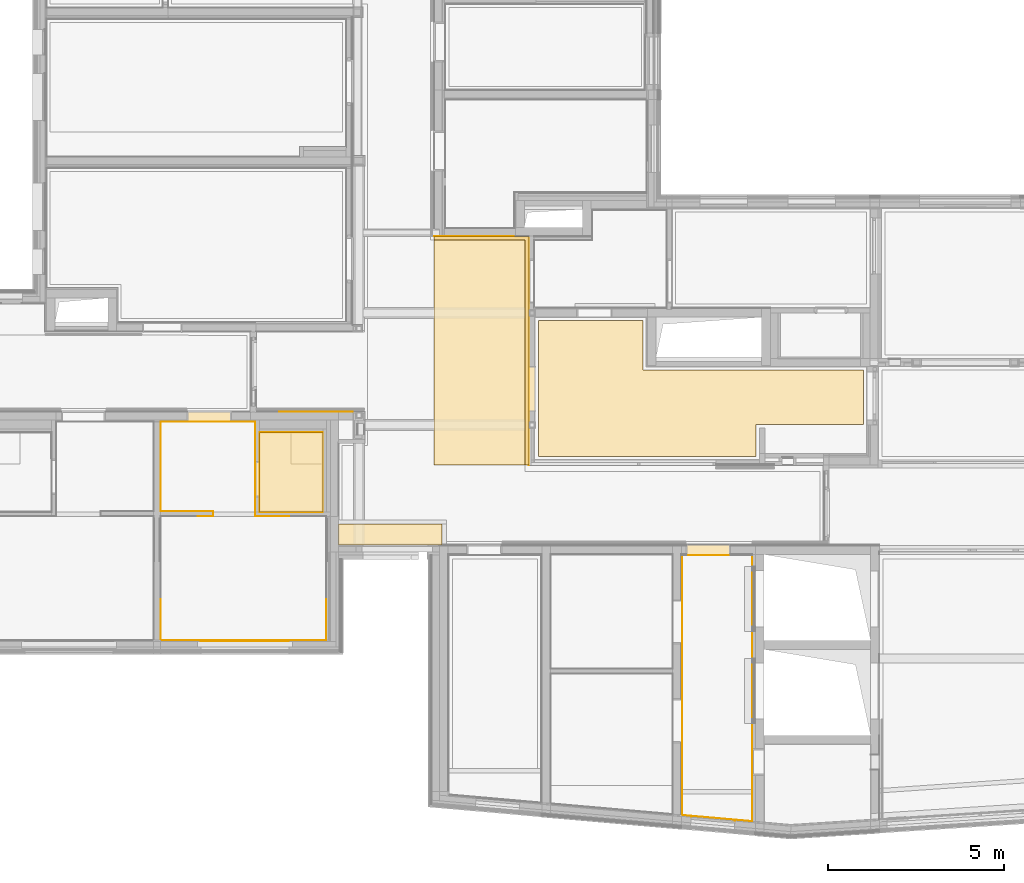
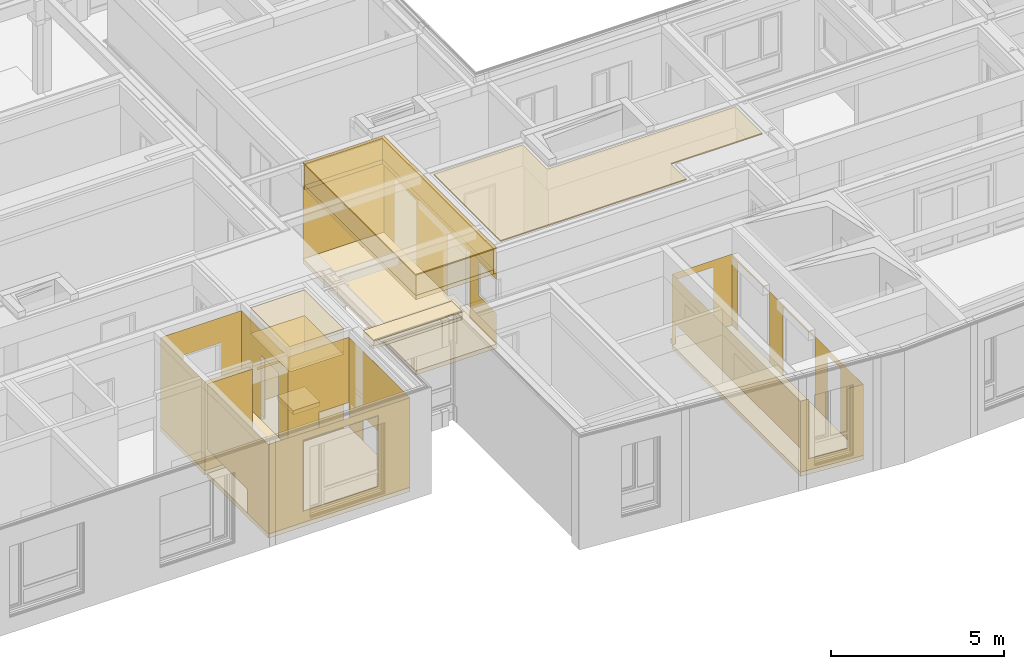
# One storey, part 165 of 222: 28 coverings.
"""IFC4 building model written with IfcOpenShell, lengths in metres."""

from ifc_helpers import new_model, entity, si_unit, converted_unit, derived_unit, frame, frame_2d, origin, origin_with_axes, place, context, subcontext, project, spatial, polyline, rectangle, outline, extrude, material, layer, layer_set, layer_usage, element, save


model = new_model("IFC4")

# Units and contexts
model_context = context("Model", 3, precision=1e-05, world=origin())
body_context = subcontext(model_context, "Body", "Model", "MODEL_VIEW")
ifc_project = project(units=[si_unit("LENGTHUNIT", "METRE"), si_unit("AREAUNIT", "SQUARE_METRE"), si_unit("VOLUMEUNIT", "CUBIC_METRE"), si_unit("MASSUNIT", "GRAM", prefix="KILO"), converted_unit("PLANEANGLEUNIT", "DEGREE", entity("IfcPlaneAngleMeasure", 0.0174532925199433), si_unit("PLANEANGLEUNIT", "RADIAN"), dimensions=[0, 0, 0, 0, 0, 0, 0]), derived_unit("THERMALTRANSMITTANCEUNIT", [(si_unit("POWERUNIT", "WATT"), 1), (si_unit("THERMODYNAMICTEMPERATUREUNIT", "KELVIN"), -1), (si_unit("LENGTHUNIT", "METRE"), -2)]), derived_unit("VOLUMETRICFLOWRATEUNIT", [(si_unit("LENGTHUNIT", "METRE"), 3), (converted_unit("TIMEUNIT", "hour", entity("IfcTimeMeasure", 3600.0), si_unit("TIMEUNIT", "SECOND"), dimensions=[0, 0, 1, 0, 0, 0, 0]), -1), (si_unit("LENGTHUNIT", "METRE"), -1)])], contexts=[model_context])

# Site, building, storey, space
site_placement = place(None, origin())
site = spatial("IfcSite", under=ifc_project, at=site_placement, Name="Psychiatrie Neubau Wunstorf", CompositionType="ELEMENT")
building_placement = place(site_placement, origin())
building = spatial("IfcBuilding", under=site, at=building_placement, Name="Neubau H2 Stationsgebäude", CompositionType="ELEMENT")
storey_placement = place(building_placement, frame((0.0, 0.0, 3.6)))
storey = spatial("IfcBuildingStorey", under=building, at=storey_placement, Name="H2 Ebene +1", CompositionType="ELEMENT", Elevation=3.6)
space_1_placement = place(storey_placement, frame((44.9410305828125, -7.31716821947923, 0.0)))
space_1 = spatial("IfcSpace", under=storey, at=space_1_placement, Name="WUN-H2-E01-F02", CompositionType="ELEMENT")

# Coverings
ifc_material_1 = material(Name="Ku2")
ifc_layer_1 = layer(ifc_material_1, 0.15)
ifc_layer_set_1 = layer_set([ifc_layer_1])
ifc_layer_usage_1 = layer_usage(ifc_layer_set_1, "AXIS3", "POSITIVE", 0.0)
covering_1_placement = place(space_1_placement, origin())
element("IfcCovering", 1, at=covering_1_placement, inside=space_1, material=ifc_layer_usage_1, Name="PVC Bahnenware Uni", PredefinedType="FLOORING", context=body_context, shape_type="SweptSolid", body=[
    extrude(rectangle(XDim=0.015, YDim=1.84, at=frame_2d((-0.0075, -0.92), x_axis=(-1.0, 0.0))), frame((2.01397429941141, 7.24981603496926, 0.0), z_axis=(0.0, 0.0, 1.0), x_axis=(1.0, 0.0, 0.0)), (0.0, 0.0, 1.0), 0.15),
    extrude(rectangle(XDim=0.0149999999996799, YDim=1.84, at=frame_2d((-0.00749999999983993, -0.92), x_axis=(-1.0, 0.0))), frame((2.01397429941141, 4.62718011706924, 0.0), z_axis=(0.0, 0.0, 1.0), x_axis=(1.0, 0.0, 0.0)), (0.0, 0.0, 1.0), 0.15),
    extrude(rectangle(XDim=1.26, YDim=0.299, at=frame_2d((0.63, 0.1495), x_axis=(1.0, -1.12784561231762e-16))), frame((0.113974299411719, 7.56716821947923, 0.0), z_axis=(0.0, 0.0, 1.0), x_axis=(1.0, 0.0, 0.0)), (0.0, 0.0, 1.0), 0.15),
    extrude(outline(polyline([(0.0, 7.56716821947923), (0.0, 0.175383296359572), (1.99897429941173, 0.0), (1.99897429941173, 7.56716821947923), (0.0, 7.56716821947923)])), origin_with_axes(), (0.0, 0.0, 1.0), 0.15),
])
ifc_material_2 = material(Name="50")
ifc_layer_2 = layer(ifc_material_2, 0.001)
ifc_layer_set_2 = layer_set([ifc_layer_2])
ifc_layer_usage_2 = layer_usage(ifc_layer_set_2, "AXIS3", "POSITIVE", 0.0)
covering_2_placement = place(space_1_placement, frame((0.0, 0.0, 0.15)))
element("IfcCovering", 2, at=covering_2_placement, inside=space_1, material=ifc_layer_usage_2, PredefinedType="CLADDING", context=body_context, shape_type="SweptSolid", body=[
    extrude(outline(polyline([(0.0, 2.5), (1.30681335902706, 2.5), (1.30681335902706, 0.24), (2.06681335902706, 0.24), (2.06681335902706, 2.5), (2.78718011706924, 2.5), (2.78718011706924, 0.08), (4.62718011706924, 0.08), (4.62718011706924, 2.5), (5.40981603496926, 2.5), (5.40981603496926, 0.08), (7.24981603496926, 0.08), (7.24981603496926, 2.5), (7.56716821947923, 2.5), (7.56716821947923, 0.0), (0.0, 0.0), (0.0, 2.5)])), frame((1.9989742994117, 0.0, 2.5), z_axis=(-1.0, -1.18547795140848e-14, -2.96938989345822e-14), x_axis=(-1.18547795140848e-14, 1.0, 0.0)), (0.0, 0.0, 1.0), 0.001),
    extrude(outline(polyline([(0.0, 2.5), (0.625000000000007, 2.5), (0.625000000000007, 0.24), (1.88500000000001, 0.24), (1.88500000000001, 2.5), (1.99897429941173, 2.5), (1.99897429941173, 0.0), (0.0, 0.0), (0.0, 2.5)])), frame((1.99897429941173, 7.56716821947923, 2.5), z_axis=(-2.5574736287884e-17, -1.0, -1.77578408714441e-17), x_axis=(-1.0, 2.5574736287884e-17, 0.0)), (0.0, 0.0, 1.0), 0.001),
    extrude(rectangle(XDim=1.65, YDim=7.39178492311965, at=frame_2d((-3.69589246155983, -0.825), x_axis=(-5.51208910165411e-16, -1.0))), frame((0.0, 0.175383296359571, 0.85), z_axis=(1.0, 0.0, 0.0), x_axis=(0.0, -1.0, 0.0)), (0.0, 0.0, 1.0), 0.001),
    extrude(outline(polyline([(0.0, 2.49999999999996), (2.00665332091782, 2.49999999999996), (2.00665332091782, 0.0), (1.51017450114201, 0.0), (1.5101743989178, 2.10000000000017), (0.260174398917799, 2.10000000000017), (0.26017450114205, 0.0), (0.0, 0.0), (0.0, 2.49999999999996)])), frame((0.0, 0.175383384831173, 2.50000000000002), z_axis=(0.0874008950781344, 0.996173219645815, 1.76060921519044e-07), x_axis=(0.996173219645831, -0.0874008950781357, 0.0)), (0.0, 0.0, 1.0), 0.001),
    extrude(rectangle(XDim=1.84, YDim=0.0150000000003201, at=frame_2d((0.00750000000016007, 0.92), x_axis=(0.0, 1.0))), frame((1.99897429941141, 7.24981603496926, 2.42), z_axis=(0.0, 0.0, -1.0), x_axis=(1.0, 0.0, 0.0)), (0.0, 0.0, 1.0), 0.001),
    extrude(rectangle(XDim=2.42, YDim=0.0150000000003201, at=frame_2d((0.00750000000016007, 1.21), x_axis=(0.0, 1.0))), frame((2.01397429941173, 7.24981603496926, 2.42), z_axis=(0.0, -1.0, 0.0), x_axis=(-1.0, 0.0, 0.0)), (0.0, 0.0, 1.0), 0.001),
    extrude(rectangle(XDim=0.0150000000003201, YDim=2.42, at=frame_2d((0.00750000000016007, -1.21), x_axis=(1.0, 0.0))), frame((1.99897429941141, 5.40981603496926, 0.0), z_axis=(0.0, 1.0, 0.0), x_axis=(1.0, 0.0, 0.0)), (0.0, 0.0, 1.0), 0.001),
    extrude(rectangle(XDim=1.84, YDim=0.015, at=frame_2d((0.0075, 0.92), x_axis=(0.0, 1.0))), frame((1.99897429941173, 4.62718011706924, 2.42), z_axis=(0.0, 0.0, -1.0), x_axis=(1.0, 0.0, 0.0)), (0.0, 0.0, 1.0), 0.001),
    extrude(rectangle(XDim=2.42, YDim=0.015, at=frame_2d((0.0075, 1.21), x_axis=(0.0, 1.0))), frame((2.01397429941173, 4.62718011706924, 2.42), z_axis=(0.0, -1.0, 0.0), x_axis=(-1.0, 0.0, 0.0)), (0.0, 0.0, 1.0), 0.001),
    extrude(rectangle(XDim=0.015, YDim=2.42, at=frame_2d((0.0075, -1.21), x_axis=(1.0, 0.0))), frame((1.99897429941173, 2.78718011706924, 0.0), z_axis=(0.0, 1.0, 0.0), x_axis=(1.0, 0.0, 0.0)), (0.0, 0.0, 1.0), 0.001),
    extrude(rectangle(XDim=0.0250011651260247, YDim=2.1, at=frame_2d((0.0125005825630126, -1.05), x_axis=(1.0, 0.0))), frame((0.259178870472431, 0.152644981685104, 0.4), z_axis=(0.996173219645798, -0.087400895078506, 1.72570008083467e-15), x_axis=(-0.087400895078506, -0.996173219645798, 0.0)), (0.0, 0.0, 1.0), 0.001),
    extrude(rectangle(XDim=2.1, YDim=0.0250011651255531, at=frame_2d((-0.012500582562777, -1.05), x_axis=(-4.33092715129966e-16, -1.0))), frame((1.50439539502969, 0.0433938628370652, 0.4), z_axis=(-0.996173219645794, 0.0874008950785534, 1.89366343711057e-17), x_axis=(0.0874008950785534, 0.996173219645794, 0.0)), (0.0, 0.0, 1.0), 0.001),
])

# Space
space_2_placement = place(storey_placement, frame((32.083, 0.550000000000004, 0.0)))
space_2 = spatial("IfcSpace", under=storey, at=space_2_placement, Name="WUN-H2-E01-F03", CompositionType="ELEMENT")

# Coverings
ifc_material_3 = material(Name="97")
ifc_layer_3 = layer(ifc_material_3, 0.001)
ifc_layer_set_3 = layer_set([ifc_layer_3])
ifc_layer_usage_3 = layer_usage(ifc_layer_set_3, "AXIS3", "POSITIVE", 0.0)
covering_3_placement = place(space_2_placement, frame((1.38699999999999, 3.78074963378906, 0.8)))
element("IfcCovering", 3, at=covering_3_placement, inside=space_2, material=ifc_layer_usage_3, Name="Handlauf", PredefinedType="CLADDING", context=body_context, shape_type="SweptSolid", body=[
    extrude(rectangle(XDim=2.1, YDim=0.1, at=frame_2d((-1.05, 0.05), x_axis=(-1.0, 0.0))), frame((2.1, 0.0, 0.1), z_axis=(-1.55913377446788e-14, 1.0, 0.0), x_axis=(1.0, 1.55913377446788e-14, 0.0)), (0.0, 0.0, 1.0), 0.001),
])
ifc_material_4 = material()
ifc_layer_4 = layer(ifc_material_4, 0.036)
ifc_layer_set_4 = layer_set([ifc_layer_4])
ifc_layer_usage_4 = layer_usage(ifc_layer_set_4, "AXIS3", "POSITIVE", 0.0)
covering_4_placement = place(space_2_placement, frame((3.08149999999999, 2.44140629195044e-06, 3.55)))
element("IfcCovering", 4, at=covering_4_placement, inside=space_2, material=ifc_layer_usage_4, Name="Gipsfaserplatten 2-lagig (BSK)", PredefinedType="CEILING", context=body_context, shape_type="SweptSolid", body=[
    extrude(rectangle(XDim=0.586000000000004, YDim=2.94649847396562, at=frame_2d((1.47324923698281, -0.293000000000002), x_axis=(0.0, -1.0))), frame((0.0, 0.0, 0.0), z_axis=(0.0, 0.0, -1.0), x_axis=(1.0, 0.0, 0.0)), (0.0, 0.0, 1.0), 0.036),
])
ifc_material_5 = material(Name="Installationshöhe")
ifc_layer_5 = layer(ifc_material_5, 0.164)
ifc_layer_set_5 = layer_set([ifc_layer_5])
ifc_layer_usage_5 = layer_usage(ifc_layer_set_5, "AXIS3", "POSITIVE", 0.0)
covering_5_placement = place(space_2_placement, frame((3.08149999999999, 2.44140629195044e-06, 3.514)))
element("IfcCovering", 5, at=covering_5_placement, inside=space_2, material=ifc_layer_usage_5, Name="Gipsfaserplatten 2-lagig (BSK)", PredefinedType="CEILING", context=body_context, shape_type="SweptSolid", body=[
    extrude(rectangle(XDim=0.586000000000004, YDim=2.94649847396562, at=frame_2d((1.47324923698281, -0.293000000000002), x_axis=(0.0, -1.0))), frame((0.0, 0.0, 0.0), z_axis=(0.0, 0.0, -1.0), x_axis=(1.0, 0.0, 0.0)), (0.0, 0.0, 1.0), 0.164),
])
ifc_material_6 = material(Name="A1")
ifc_layer_6 = layer(ifc_material_6, 0.1)
ifc_layer_set_6 = layer_set([ifc_layer_6])
ifc_layer_usage_6 = layer_usage(ifc_layer_set_6, "AXIS3", "POSITIVE", 0.0)
covering_6_placement = place(space_2_placement, frame((3.08149999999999, 2.44140629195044e-06, 3.35)))
element("IfcCovering", 6, at=covering_6_placement, inside=space_2, material=ifc_layer_usage_6, Name="Gipsfaserplatten 2-lagig (BSK)", PredefinedType="CEILING", context=body_context, shape_type="SweptSolid", body=[
    extrude(rectangle(XDim=0.586000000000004, YDim=2.94649847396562, at=frame_2d((1.47324923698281, -0.293000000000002), x_axis=(0.0, -1.0))), frame((0.0, 0.0, 0.0), z_axis=(0.0, 0.0, -1.0), x_axis=(1.0, 0.0, 0.0)), (0.0, 0.0, 1.0), 0.1),
])
ifc_material_7 = material(Name="D1")
ifc_layer_7 = layer(ifc_material_7, 0.001)
ifc_layer_set_7 = layer_set([ifc_layer_7])
ifc_layer_usage_7 = layer_usage(ifc_layer_set_7, "AXIS3", "POSITIVE", 0.0)
covering_7_placement = place(space_2_placement, frame((3.08149999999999, 2.44140629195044e-06, 3.25)))
element("IfcCovering", 7, at=covering_7_placement, inside=space_2, material=ifc_layer_usage_7, Name="Gipsfaserplatten 2-lagig (BSK)", PredefinedType="CEILING", context=body_context, shape_type="SweptSolid", body=[
    extrude(rectangle(XDim=0.586000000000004, YDim=2.94649847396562, at=frame_2d((1.47324923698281, -0.293000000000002), x_axis=(0.0, -1.0))), frame((0.0, 0.0, 0.0), z_axis=(0.0, 0.0, -1.0), x_axis=(1.0, 0.0, 0.0)), (0.0, 0.0, 1.0), 0.001),
])

# Space
space_3_placement = place(storey_placement, frame((30.1, -2.16399999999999, 0.0)))
space_3 = spatial("IfcSpace", under=storey, at=space_3_placement, Name="WUN-H2-E01-019", CompositionType="ELEMENT")

# Coverings
ifc_material_8 = material(Name="Ku1")
ifc_layer_8 = layer(ifc_material_8, 0.15)
ifc_layer_set_8 = layer_set([ifc_layer_8])
ifc_layer_usage_8 = layer_usage(ifc_layer_set_8, "AXIS3", "POSITIVE", 0.0)
covering_8_placement = place(space_3_placement, origin())
element("IfcCovering", 8, at=covering_8_placement, inside=space_3, material=ifc_layer_usage_8, Name="PVC Bahnenware Holzoptik", PredefinedType="FLOORING", context=body_context, shape_type="SweptSolid", body=[
    extrude(rectangle(XDim=0.271999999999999, YDim=1.26, at=frame_2d((-0.63, 0.136), x_axis=(0.0, 1.0))), frame((2.01499999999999, 6.22274963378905, 0.0), z_axis=(0.0, 0.0, 1.0), x_axis=(1.0, 0.0, 0.0)), (0.0, 0.0, 1.0), 0.15),
    extrude(outline(polyline([(4.71400000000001, 2.70000244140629), (4.71750000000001, 2.70000244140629), (4.71400000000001, 3.52274963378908), (2.6925, 3.5227496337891), (2.6925, 6.22274963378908), (0.0, 6.22274963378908), (0.0, 3.6727496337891), (1.5, 3.6727496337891), (1.5, 3.52274963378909), (0.0, 3.52274963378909), (0.0, 0.0), (4.71400000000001, 0.0), (4.71400000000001, 2.70000244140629)])), origin_with_axes(), (0.0, 0.0, 1.0), 0.15),
])
ifc_material_9 = material(Name="49")
ifc_layer_9 = layer(ifc_material_9, 0.001)
ifc_layer_set_9 = layer_set([ifc_layer_9])
ifc_layer_usage_9 = layer_usage(ifc_layer_set_9, "AXIS3", "POSITIVE", 0.0)
covering_9_placement = place(space_3_placement, frame((0.0, -0.025, 0.15)))
element("IfcCovering", 9, at=covering_9_placement, inside=space_3, material=ifc_layer_usage_9, PredefinedType="CLADDING", context=body_context, shape_type="SweptSolid", body=[
    extrude(outline(polyline([(0.0, 3.15), (4.71400000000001, 3.15), (4.71400000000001, 0.0), (0.0, 0.0), (0.0, 3.15)]), holes=[polyline([(3.65, 2.75), (1.15, 2.75), (1.15, 0.25), (3.65, 0.25), (3.65, 2.75)])]), frame((0.0, 0.025, 3.15), z_axis=(5.38823161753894e-17, 1.0, 0.0), x_axis=(1.0, -5.38823161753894e-17, 0.0)), (0.0, 0.0, 1.0), 0.001),
    extrude(outline(polyline([(0.0, 3.15), (1.22274963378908, 3.15), (1.22274963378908, 2.3), (2.70000244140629, 2.3), (2.70000244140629, 0.0), (0.0, 0.0), (0.0, 3.15)])), frame((4.714, 0.025, 3.15), z_axis=(-1.0, -8.44718225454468e-16, -4.51921617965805e-31), x_axis=(-8.44718225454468e-16, 1.0, 0.0)), (0.0, 0.0, 1.0), 0.001),
    extrude(rectangle(XDim=0.0035, YDim=3.15, at=frame_2d((0.00175, -1.575), x_axis=(1.0, 0.0))), frame((4.71400000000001, 2.72500244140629, 0.0), z_axis=(0.0, 1.0, 0.0), x_axis=(1.0, 0.0, 0.0)), (0.0, 0.0, 1.0), 0.001),
    extrude(rectangle(XDim=0.822754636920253, YDim=3.15, at=frame_2d((0.411377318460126, -1.575), x_axis=(1.0, 0.0))), frame((4.71750000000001, 2.72500244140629, 0.0), z_axis=(-0.999990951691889, -0.00425400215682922, 0.0), x_axis=(-0.00425400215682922, 0.999990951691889, 0.0)), (0.0, 0.0, 1.0), 0.001),
    extrude(outline(polyline([(1.0, 3.15), (2.02150000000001, 3.15), (2.02150000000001, 0.0), (0.0, 0.0), (0.0, 2.3), (1.0, 2.3), (1.0, 3.15)])), frame((4.71400000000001, 3.54774963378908, 3.15), z_axis=(-7.29791316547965e-15, -1.0, 6.46036327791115e-16), x_axis=(-1.0, 7.29791316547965e-15, 0.0)), (0.0, 0.0, 1.0), 0.001),
    extrude(outline(polyline([(0.0, 3.15), (0.549999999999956, 3.15), (0.549999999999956, 0.89), (1.55999999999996, 0.89), (1.55999999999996, 3.15), (2.69999999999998, 3.15), (2.69999999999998, 0.0), (0.0, 0.0), (0.0, 3.15)])), frame((2.6925, 3.5477496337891, 3.15), z_axis=(-1.0, 0.0, 0.0), x_axis=(0.0, 1.0, 0.0)), (0.0, 0.0, 1.0), 0.001),
    extrude(outline(polyline([(0.0, 3.15), (0.677500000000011, 3.15), (0.677500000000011, 0.89), (1.93750000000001, 0.89), (1.93750000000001, 3.15), (2.6925, 3.15), (2.6925, 0.0), (0.0, 0.0), (0.0, 3.15)])), frame((2.6925, 6.24774963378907, 3.15), z_axis=(-1.70681005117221e-16, -1.0, -2.12621875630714e-15), x_axis=(-1.0, 1.70681005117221e-16, 0.0)), (0.0, 0.0, 1.0), 0.001),
    extrude(rectangle(XDim=2.54999999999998, YDim=3.15, at=frame_2d((1.27499999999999, -1.575), x_axis=(1.0, 0.0))), frame((0.0, 6.24774963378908, 0.0), z_axis=(1.0, 0.0, 0.0), x_axis=(0.0, -1.0, 0.0)), (0.0, 0.0, 1.0), 0.001),
    extrude(rectangle(XDim=1.5, YDim=3.15, at=frame_2d((0.75, -1.575), x_axis=(1.0, 0.0))), frame((0.0, 3.6977496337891, 0.0), z_axis=(0.0, 1.0, 0.0), x_axis=(1.0, 0.0, 0.0)), (0.0, 0.0, 1.0), 0.001),
    extrude(rectangle(XDim=0.150000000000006, YDim=3.15, at=frame_2d((0.0750000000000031, -1.575), x_axis=(1.0, 0.0))), frame((1.5, 3.6977496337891, 0.0), z_axis=(1.0, 0.0, 0.0), x_axis=(0.0, -1.0, 0.0)), (0.0, 0.0, 1.0), 0.001),
    extrude(outline(polyline([(0.0, 3.15), (0.5, 3.15), (0.5, 2.3), (1.5, 2.3), (1.5, 0.0), (0.0, 0.0), (0.0, 3.15)])), frame((1.5, 3.54774963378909, 3.15), z_axis=(0.0, -1.0, 0.0), x_axis=(-1.0, 0.0, 0.0)), (0.0, 0.0, 1.0), 0.001),
    extrude(outline(polyline([(2.3, 3.15), (3.52274963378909, 3.15), (3.52274963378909, 0.0), (0.0, 0.0), (0.0, 2.3), (2.3, 2.3), (2.3, 3.15)])), frame((0.0, 3.54774963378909, 3.15), z_axis=(1.0, 0.0, 0.0), x_axis=(0.0, -1.0, 0.0)), (0.0, 0.0, 1.0), 0.001),
    extrude(rectangle(XDim=0.025, YDim=2.5, at=frame_2d((0.0125, -1.25), x_axis=(1.0, 0.0))), frame((1.15, 0.025, 0.4), z_axis=(1.0, 0.0, 0.0), x_axis=(0.0, -1.0, 0.0)), (0.0, 0.0, 1.0), 0.001),
    extrude(rectangle(XDim=2.5, YDim=0.025, at=frame_2d((-1.25, 0.0124999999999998), x_axis=(-1.0, -1.81898940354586e-16))), frame((3.65, 0.0249999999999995, 2.9), z_axis=(0.0, 0.0, -1.0), x_axis=(1.0, 0.0, 0.0)), (0.0, 0.0, 1.0), 0.001),
    extrude(rectangle(XDim=2.5, YDim=0.0249999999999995, at=frame_2d((-0.0124999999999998, -1.25), x_axis=(0.0, -1.0))), frame((3.65, 0.0249999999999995, 0.4), z_axis=(-1.0, 0.0, 0.0), x_axis=(0.0, 1.0, 0.0)), (0.0, 0.0, 1.0), 0.001),
])

# Space
space_4_placement = place(storey_placement, frame((32.9175, 1.48374963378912, 0.0)))
space_4 = spatial("IfcSpace", under=storey, at=space_4_placement, Name="WUN-H2-E01-019a", CompositionType="ELEMENT")

# Coverings
ifc_material_10 = material(Name="Fl2")
ifc_layer_10 = layer(ifc_material_10, 0.15)
ifc_layer_set_10 = layer_set([ifc_layer_10])
ifc_layer_usage_10 = layer_usage(ifc_layer_set_10, "AXIS3", "POSITIVE", 0.0)
covering_10_placement = place(space_4_placement, frame((0.9, 1.36499999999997, 0.0)))
element("IfcCovering", 10, at=covering_10_placement, inside=space_4, material=ifc_layer_usage_10, Name="Fliesen Mosaik", PredefinedType="FLOORING", context=body_context, shape_type="SweptSolid", body=[
    extrude(rectangle(XDim=0.9, YDim=0.9, at=frame_2d((-0.45, -0.45), x_axis=(-1.0, 0.0))), frame((0.9, 0.9, 0.0), z_axis=(0.0, 0.0, 1.0), x_axis=(1.0, 0.0, 0.0)), (0.0, 0.0, 1.0), 0.15),
])
ifc_material_11 = material(Name="Fl1")
ifc_layer_11 = layer(ifc_material_11, 0.15)
ifc_layer_set_11 = layer_set([ifc_layer_11])
ifc_layer_usage_11 = layer_usage(ifc_layer_set_11, "AXIS3", "POSITIVE", 0.0)
covering_11_placement = place(space_4_placement, frame((-0.125000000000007, 0.0, 0.0)))
element("IfcCovering", 11, at=covering_11_placement, inside=space_4, material=ifc_layer_usage_11, Name="Fliesen", PredefinedType="FLOORING", context=body_context, shape_type="SweptSolid", body=[
    extrude(rectangle(XDim=0.125, YDim=1.01, at=frame_2d((0.0625, 0.505), x_axis=(1.0, 0.0))), frame((0.0, 0.424999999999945, 0.0), z_axis=(0.0, 0.0, 1.0), x_axis=(1.0, 0.0, 0.0)), (0.0, 0.0, 1.0), 0.15),
    extrude(outline(polyline([(0.0, 0.0), (1.8, 0.0), (1.8, 1.36499999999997), (0.9, 1.36499999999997), (0.9, 2.26499999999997), (0.0, 2.26499999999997), (0.0, 0.0)])), frame((0.125000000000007, 0.0, 0.0), z_axis=(0.0, 0.0, 1.0), x_axis=(1.0, 0.0, 0.0)), (0.0, 0.0, 1.0), 0.15),
])
ifc_material_12 = material()
ifc_layer_12 = layer(ifc_material_12, 0.036)
ifc_layer_set_12 = layer_set([ifc_layer_12])
ifc_layer_usage_12 = layer_usage(ifc_layer_set_12, "AXIS3", "POSITIVE", 0.0)
covering_12_placement = place(space_4_placement, frame((0.0, 0.0, 3.55)))
element("IfcCovering", 12, at=covering_12_placement, inside=space_4, material=ifc_layer_usage_12, Name="Gipsfaserplatten 2-lagig (BSK)", PredefinedType="CEILING", context=body_context, shape_type="SweptSolid", body=[
    extrude(rectangle(XDim=1.8, YDim=2.26499999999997, at=frame_2d((-0.9, -1.13249999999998), x_axis=(-1.0, 0.0))), frame((1.8, 0.0, 0.0), z_axis=(0.0, 0.0, -1.0), x_axis=(1.0, 0.0, 0.0)), (0.0, 0.0, 1.0), 0.036),
])
ifc_material_13 = material(Name="Installationshöhe")
ifc_layer_13 = layer(ifc_material_13, 0.764)
ifc_layer_set_13 = layer_set([ifc_layer_13])
ifc_layer_usage_13 = layer_usage(ifc_layer_set_13, "AXIS3", "POSITIVE", 0.0)
covering_13_placement = place(space_4_placement, frame((0.0, 0.0, 3.514)))
element("IfcCovering", 13, at=covering_13_placement, inside=space_4, material=ifc_layer_usage_13, Name="Gipsfaserplatten 2-lagig (BSK)", PredefinedType="CEILING", context=body_context, shape_type="SweptSolid", body=[
    extrude(rectangle(XDim=1.8, YDim=2.26499999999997, at=frame_2d((-0.9, -1.13249999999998), x_axis=(-1.0, 0.0))), frame((1.8, 0.0, 0.0), z_axis=(0.0, 0.0, -1.0), x_axis=(1.0, 0.0, 0.0)), (0.0, 0.0, 1.0), 0.764),
])
ifc_material_14 = material(Name="B")
ifc_layer_14 = layer(ifc_material_14, 0.1)
ifc_layer_set_14 = layer_set([ifc_layer_14])
ifc_layer_usage_14 = layer_usage(ifc_layer_set_14, "AXIS3", "POSITIVE", 0.0)
covering_14_placement = place(space_4_placement, frame((0.0, 0.0, 2.75)))
element("IfcCovering", 14, at=covering_14_placement, inside=space_4, material=ifc_layer_usage_14, Name="Gipskarton, imprägniert", PredefinedType="CEILING", context=body_context, shape_type="SweptSolid", body=[
    extrude(rectangle(XDim=1.8, YDim=2.26499999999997, at=frame_2d((-0.9, -1.13249999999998), x_axis=(-1.0, 0.0))), frame((1.8, 0.0, 0.0), z_axis=(0.0, 0.0, -1.0), x_axis=(1.0, 0.0, 0.0)), (0.0, 0.0, 1.0), 0.1),
])
ifc_material_15 = material(Name="D1")
ifc_layer_15 = layer(ifc_material_15, 0.001)
ifc_layer_set_15 = layer_set([ifc_layer_15])
ifc_layer_usage_15 = layer_usage(ifc_layer_set_15, "AXIS3", "POSITIVE", 0.0)
covering_15_placement = place(space_4_placement, frame((0.0, 0.0, 2.65)))
element("IfcCovering", 15, at=covering_15_placement, inside=space_4, material=ifc_layer_usage_15, Name="Gipsfaserplatten 2-lagig (BSK)", PredefinedType="CEILING", context=body_context, shape_type="SweptSolid", body=[
    extrude(rectangle(XDim=1.8, YDim=2.26499999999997, at=frame_2d((-0.9, -1.13249999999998), x_axis=(-1.0, 0.0))), frame((1.8, 0.0, 0.0), z_axis=(0.0, 0.0, -1.0), x_axis=(1.0, 0.0, 0.0)), (0.0, 0.0, 1.0), 0.001),
])
ifc_material_16 = material(Name="50")
ifc_layer_16 = layer(ifc_material_16, 0.001)
ifc_layer_set_16 = layer_set([ifc_layer_16])
ifc_layer_usage_16 = layer_usage(ifc_layer_set_16, "AXIS3", "POSITIVE", 0.0)
covering_16_placement = place(space_4_placement, frame((0.0, 0.0, 0.15)))
element("IfcCovering", 16, at=covering_16_placement, inside=space_4, material=ifc_layer_usage_16, PredefinedType="CLADDING", context=body_context, shape_type="SweptSolid", body=[
    extrude(outline(polyline([(0.0, 2.5), (0.0149999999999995, 2.5), (0.0149999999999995, 0.24), (1.025, 0.24), (1.025, 2.5), (1.44999999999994, 2.5), (1.44999999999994, 0.0), (0.0, 0.0), (0.0, 2.5)])), frame((0.0, 1.44999999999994, 2.5), z_axis=(1.0, 0.0, 0.0), x_axis=(0.0, -1.0, 0.0)), (0.0, 0.0, 1.0), 0.001),
    extrude(rectangle(XDim=1.8, YDim=2.5, at=frame_2d((0.9, -1.25), x_axis=(1.0, 0.0))), frame((0.0, 0.0, 0.0), z_axis=(0.0, 1.0, 0.0), x_axis=(1.0, 0.0, 0.0)), (0.0, 0.0, 1.0), 0.001),
])
ifc_material_17 = material(Name="68")
ifc_layer_17 = layer(ifc_material_17, 0.01)
ifc_layer_set_17 = layer_set([ifc_layer_17])
ifc_layer_usage_17 = layer_usage(ifc_layer_set_17, "AXIS3", "POSITIVE", 0.0)
covering_17_placement = place(space_4_placement, frame((0.0, 0.0, 0.15)))
element("IfcCovering", 17, at=covering_17_placement, inside=space_4, material=ifc_layer_usage_17, Name="a-sh Wandbelag", PredefinedType="CLADDING", context=body_context, shape_type="SweptSolid", body=[
    extrude(rectangle(XDim=2.26499999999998, YDim=2.5, at=frame_2d((1.13249999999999, -1.25), x_axis=(1.0, 0.0))), frame((1.80000000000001, 0.0, 0.0), z_axis=(-1.0, 0.0, 0.0), x_axis=(0.0, 1.0, 0.0)), (0.0, 0.0, 1.0), 0.01),
    extrude(rectangle(XDim=0.815000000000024, YDim=2.5, at=frame_2d((0.407500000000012, -1.25), x_axis=(1.0, 0.0))), frame((0.0, 2.26499999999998, 0.0), z_axis=(1.0, 0.0, 0.0), x_axis=(0.0, -1.0, 0.0)), (0.0, 0.0, 1.0), 0.01),
    extrude(rectangle(XDim=1.80000000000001, YDim=2.5, at=frame_2d((0.900000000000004, -1.25), x_axis=(1.0, 0.0))), frame((1.80000000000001, 2.26499999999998, 0.0), z_axis=(0.0, -1.0, 0.0), x_axis=(-1.0, 0.0, 0.0)), (0.0, 0.0, 1.0), 0.01),
])

# Space
space_5_placement = place(storey_placement, frame((40.7249975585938, 2.96734917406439, 0.0)))
space_5 = spatial("IfcSpace", under=storey, at=space_5_placement, Name="WUN-H2-E01-073", CompositionType="ELEMENT")

# Covering
ifc_material_18 = material()
ifc_layer_18 = layer(ifc_material_18, 0.036)
ifc_layer_set_18 = layer_set([ifc_layer_18])
ifc_layer_usage_18 = layer_usage(ifc_layer_set_18, "AXIS3", "POSITIVE", 0.0)
covering_18_placement = place(space_5_placement, frame((0.125151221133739, 0.1, 3.55)))
element("IfcCovering", 18, at=covering_18_placement, inside=space_5, material=ifc_layer_usage_18, Name="Gipsfaserplatten 2-lagig (BSK)", PredefinedType="CEILING", context=body_context, shape_type="SweptSolid", body=[
    extrude(outline(polyline([(1.28340935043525e-06, 3.86315051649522), (0.0, 0.0), (2.96985158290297, 0.0), (2.96985158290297, 1.41299947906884), (9.24635122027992, 1.41299947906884), (9.24635122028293, 2.96300000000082), (6.19276317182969, 2.96300000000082), (6.19276317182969, 3.86315051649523), (1.28340935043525e-06, 3.86315051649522)])), frame((0.0, 3.86315051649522, 0.0), z_axis=(0.0, 0.0, -1.0), x_axis=(1.0, 0.0, 0.0)), (0.0, 0.0, 1.0), 0.036),
])

# Space
space_6_placement = place(storey_placement, frame((37.8825, 2.81749969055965, 0.0)))
space_6 = spatial("IfcSpace", under=storey, at=space_6_placement, Name="WUN-H2-E01-073", CompositionType="ELEMENT")

# Coverings
ifc_material_19 = material()
ifc_layer_19 = layer(ifc_material_19, 0.036)
ifc_layer_set_19 = layer_set([ifc_layer_19])
ifc_layer_usage_19 = layer_usage(ifc_layer_set_19, "AXIS3", "POSITIVE", 0.0)
covering_19_placement = place(space_6_placement, frame((0.0, 0.0, 3.55)))
element("IfcCovering", 19, at=covering_19_placement, inside=space_6, material=ifc_layer_usage_19, Name="Gipsfaserplatten 2-lagig (BSK)", PredefinedType="CEILING", context=body_context, shape_type="SweptSolid", body=[
    extrude(rectangle(XDim=6.40499655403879, YDim=2.59249755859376, at=frame_2d((-1.29624877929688, 3.2024982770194), x_axis=(0.0, 1.0))), frame((2.59249755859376, 6.40499655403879, 0.0), z_axis=(0.0, 0.0, -1.0), x_axis=(1.0, 0.0, 0.0)), (0.0, 0.0, 1.0), 0.036),
])
ifc_material_20 = material(Name="Installationshöhe")
ifc_layer_20 = layer(ifc_material_20, 0.714)
ifc_layer_set_20 = layer_set([ifc_layer_20])
ifc_layer_usage_20 = layer_usage(ifc_layer_set_20, "AXIS3", "POSITIVE", 0.0)
covering_20_placement = place(space_6_placement, frame((0.0, 0.0, 3.514)))
element("IfcCovering", 20, at=covering_20_placement, inside=space_6, material=ifc_layer_usage_20, Name="Gipsfaserplatten 2-lagig (BSK)", PredefinedType="CEILING", context=body_context, shape_type="SweptSolid", body=[
    extrude(rectangle(XDim=6.40499655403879, YDim=2.59249755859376, at=frame_2d((-1.29624877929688, 3.2024982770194), x_axis=(0.0, 1.0))), frame((2.59249755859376, 6.40499655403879, 0.0), z_axis=(0.0, 0.0, -1.0), x_axis=(1.0, 0.0, 0.0)), (0.0, 0.0, 1.0), 0.714),
])
ifc_material_21 = material(Name="Aa")
ifc_layer_21 = layer(ifc_material_21, 0.15)
ifc_layer_set_21 = layer_set([ifc_layer_21])
ifc_layer_usage_21 = layer_usage(ifc_layer_set_21, "AXIS3", "POSITIVE", 0.0)
covering_21_placement = place(space_6_placement, frame((0.0, 0.0, 2.8)))
element("IfcCovering", 21, at=covering_21_placement, inside=space_6, material=ifc_layer_usage_21, Name="Gipsfaserplatten 2-lagig (BSK)", PredefinedType="CEILING", context=body_context, shape_type="SweptSolid", body=[
    extrude(rectangle(XDim=6.40499655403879, YDim=2.59249755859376, at=frame_2d((-1.29624877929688, 3.2024982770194), x_axis=(0.0, 1.0))), frame((2.59249755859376, 6.40499655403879, 0.0), z_axis=(0.0, 0.0, -1.0), x_axis=(1.0, 0.0, 0.0)), (0.0, 0.0, 1.0), 0.15),
])
ifc_material_22 = material(Name="D1")
ifc_layer_22 = layer(ifc_material_22, 0.001)
ifc_layer_set_22 = layer_set([ifc_layer_22])
ifc_layer_usage_22 = layer_usage(ifc_layer_set_22, "AXIS3", "POSITIVE", 0.0)
covering_22_placement = place(space_6_placement, frame((0.0, 0.0, 2.65)))
element("IfcCovering", 22, at=covering_22_placement, inside=space_6, material=ifc_layer_usage_22, Name="Gipsfaserplatten 2-lagig (BSK)", PredefinedType="CEILING", context=body_context, shape_type="SweptSolid", body=[
    extrude(rectangle(XDim=6.40499655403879, YDim=2.59249755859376, at=frame_2d((-1.29624877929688, 3.2024982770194), x_axis=(0.0, 1.0))), frame((2.59249755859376, 6.40499655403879, 0.0), z_axis=(0.0, 0.0, -1.0), x_axis=(1.0, 0.0, 0.0)), (0.0, 0.0, 1.0), 0.001),
])
ifc_material_23 = material(Name="Ku1")
ifc_layer_23 = layer(ifc_material_23, 0.15)
ifc_layer_set_23 = layer_set([ifc_layer_23])
ifc_layer_usage_23 = layer_usage(ifc_layer_set_23, "AXIS3", "POSITIVE", 0.0)
covering_23_placement = place(space_6_placement, origin())
element("IfcCovering", 23, at=covering_23_placement, inside=space_6, material=ifc_layer_usage_23, Name="PVC Bahnenware Holzoptik", PredefinedType="FLOORING", context=body_context, shape_type="SweptSolid", body=[
    extrude(rectangle(XDim=0.175, YDim=1.26, at=frame_2d((-0.0875, -0.63), x_axis=(-1.0, 0.0))), frame((2.86749755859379, 2.80000052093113, 0.0), z_axis=(0.0, 0.0, 1.0), x_axis=(1.0, 0.0, 0.0)), (0.0, 0.0, 1.0), 0.15),
    extrude(outline(polyline([(2.31745117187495, 6.50649655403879), (0.0, 6.50649655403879), (0.0, 0.0), (2.69249755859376, 0.0), (2.69249755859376, 6.50499655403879), (2.31745117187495, 6.50499655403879), (2.31745117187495, 6.50649655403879)])), origin_with_axes(), (0.0, 0.0, 1.0), 0.15),
])
ifc_material_24 = material()
ifc_layer_24 = layer(ifc_material_24, 0.036)
ifc_layer_set_24 = layer_set([ifc_layer_24])
ifc_layer_usage_24 = layer_usage(ifc_layer_set_24, "AXIS3", "POSITIVE", 0.0)
covering_24_placement = place(space_6_placement, frame((0.0, 0.0, 3.55)))
element("IfcCovering", 24, at=covering_24_placement, inside=space_6, material=ifc_layer_usage_24, Name="Gipsfaserplatten 2-lagig (BSK)", PredefinedType="CEILING", context=body_context, shape_type="SweptSolid", body=[
    extrude(outline(polyline([(0.0, 0.0), (2.31745117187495, 0.0), (2.31745117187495, 0.0015), (2.69249755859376, 0.0015), (2.69249755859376, 6.50649655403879), (2.59249755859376, 6.50649655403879), (2.59249755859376, 0.1015), (0.0, 0.1015), (0.0, 0.0)])), frame((0.0, 6.50649655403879, 0.0), z_axis=(0.0, 0.0, -1.0), x_axis=(1.0, 0.0, 0.0)), (0.0, 0.0, 1.0), 0.036),
])
ifc_material_25 = material(Name="Installationshöhe")
ifc_layer_25 = layer(ifc_material_25, 0.714)
ifc_layer_set_25 = layer_set([ifc_layer_25])
ifc_layer_usage_25 = layer_usage(ifc_layer_set_25, "AXIS3", "POSITIVE", 0.0)
covering_25_placement = place(space_6_placement, frame((0.0, 0.0, 3.514)))
element("IfcCovering", 25, at=covering_25_placement, inside=space_6, material=ifc_layer_usage_25, Name="Gipsfaserplatten 2-lagig (BSK)", PredefinedType="CEILING", context=body_context, shape_type="SweptSolid", body=[
    extrude(outline(polyline([(0.0, 0.0), (2.31745117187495, 0.0), (2.31745117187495, 0.0015), (2.69249755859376, 0.0015), (2.69249755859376, 6.50649655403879), (2.59249755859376, 6.50649655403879), (2.59249755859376, 0.1015), (0.0, 0.1015), (0.0, 0.0)])), frame((0.0, 6.50649655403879, 0.0), z_axis=(0.0, 0.0, -1.0), x_axis=(1.0, 0.0, 0.0)), (0.0, 0.0, 1.0), 0.714),
])
ifc_material_26 = material(Name="A1")
ifc_layer_26 = layer(ifc_material_26, 0.15)
ifc_layer_set_26 = layer_set([ifc_layer_26])
ifc_layer_usage_26 = layer_usage(ifc_layer_set_26, "AXIS3", "POSITIVE", 0.0)
covering_26_placement = place(space_6_placement, frame((0.0, 0.0, 2.8)))
element("IfcCovering", 26, at=covering_26_placement, inside=space_6, material=ifc_layer_usage_26, Name="Gipsfaserplatten 2-lagig (BSK)", PredefinedType="CEILING", context=body_context, shape_type="SweptSolid", body=[
    extrude(outline(polyline([(0.0, 0.0), (2.31745117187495, 0.0), (2.31745117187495, 0.0015), (2.69249755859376, 0.0015), (2.69249755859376, 6.50649655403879), (2.59249755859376, 6.50649655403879), (2.59249755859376, 0.1015), (0.0, 0.1015), (0.0, 0.0)])), frame((0.0, 6.50649655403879, 0.0), z_axis=(0.0, 0.0, -1.0), x_axis=(1.0, 0.0, 0.0)), (0.0, 0.0, 1.0), 0.15),
])
ifc_material_27 = material(Name="D1")
ifc_layer_27 = layer(ifc_material_27, 0.001)
ifc_layer_set_27 = layer_set([ifc_layer_27])
ifc_layer_usage_27 = layer_usage(ifc_layer_set_27, "AXIS3", "POSITIVE", 0.0)
covering_27_placement = place(space_6_placement, frame((0.0, 0.0, 2.65)))
element("IfcCovering", 27, at=covering_27_placement, inside=space_6, material=ifc_layer_usage_27, Name="Gipsfaserplatten 2-lagig (BSK)", PredefinedType="CEILING", context=body_context, shape_type="SweptSolid", body=[
    extrude(outline(polyline([(0.0, 0.0), (2.31745117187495, 0.0), (2.31745117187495, 0.0015), (2.69249755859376, 0.0015), (2.69249755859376, 6.50649655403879), (2.59249755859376, 6.50649655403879), (2.59249755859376, 0.1015), (0.0, 0.1015), (0.0, 0.0)])), frame((0.0, 6.50649655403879, 0.0), z_axis=(0.0, 0.0, -1.0), x_axis=(1.0, 0.0, 0.0)), (0.0, 0.0, 1.0), 0.001),
])
ifc_material_28 = material(Name="49")
ifc_layer_28 = layer(ifc_material_28, 0.001)
ifc_layer_set_28 = layer_set([ifc_layer_28])
ifc_layer_usage_28 = layer_usage(ifc_layer_set_28, "AXIS3", "POSITIVE", 0.0)
covering_28_placement = place(space_6_placement, frame((0.0, 0.0, 0.15)))
element("IfcCovering", 28, at=covering_28_placement, inside=space_6, material=ifc_layer_usage_28, PredefinedType="CLADDING", context=body_context, shape_type="SweptSolid", body=[
    extrude(rectangle(XDim=0.375046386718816, YDim=3.15, at=frame_2d((0.187523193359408, -1.575), x_axis=(1.0, 0.0))), frame((2.69249755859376, 6.50499655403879, 0.0), z_axis=(0.0, -1.0, 0.0), x_axis=(-1.0, 0.0, 0.0)), (0.0, 0.0, 1.0), 0.001),
    extrude(rectangle(XDim=0.0015, YDim=3.15, at=frame_2d((0.00075, -1.575), x_axis=(1.0, 0.0))), frame((2.31745117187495, 6.50499655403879, 0.0), z_axis=(-1.0, 0.0, 0.0), x_axis=(0.0, 1.0, 0.0)), (0.0, 0.0, 1.0), 0.001),
    extrude(rectangle(XDim=2.31745117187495, YDim=3.15, at=frame_2d((1.15872558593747, -1.575), x_axis=(1.0, 0.0))), frame((2.31745117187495, 6.50649655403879, 0.0), z_axis=(0.0, -1.0, 0.0), x_axis=(-1.0, 0.0, 0.0)), (0.0, 0.0, 1.0), 0.001),
    extrude(outline(polyline([(0.0, 3.15), (1.54000052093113, 3.15), (1.54000052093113, 0.89), (2.80000052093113, 0.89), (2.80000052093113, 3.15), (4.6075, 3.15), (4.6075, 0.89), (5.8675, 0.89), (5.8675, 3.15), (6.50499655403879, 3.15), (6.50499655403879, 0.0), (0.0, 0.0), (0.0, 0.89), (1.05249725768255, 0.89), (1.05249725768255, 2.07), (0.0, 2.07), (0.0, 3.15)])), frame((2.69249755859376, 0.0, 3.15), z_axis=(-1.0, 1.36031498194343e-15, 3.37653281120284e-15), x_axis=(1.36031498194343e-15, 1.0, 0.0)), (0.0, 0.0, 1.0), 0.001),
])

save(model, "model.ifc")
